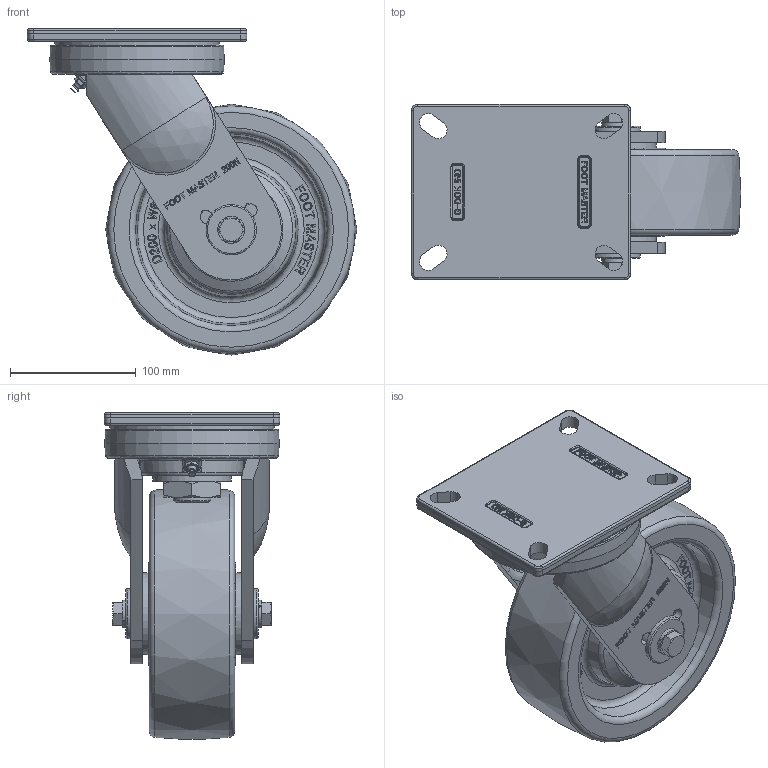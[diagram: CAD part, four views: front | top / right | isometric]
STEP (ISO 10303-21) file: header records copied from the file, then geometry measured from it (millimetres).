
FILE_DESCRIPTION(/* description */ (''),/* implementation_level */ '2;1');
FILE_NAME(/* name */ 'Y:\1.기술연구소\2.연구개발 진행중\133.고하중캐스터 브레이크 타입 변경건_2025.11.03\1.도면\4.홈페이지용 도면\01. 3D\GXT-200 SERIES\GXT-200-STEP\GXT-200N-ASF-NYD.stp',/* time_stamp */ '2026-07-21T19:20:51+09:00',/* author */ ('장용하'),/* organization */ (''),/* preprocessor_version */ 'ST-DEVELOPER v18.1',/* originating_system */ 'Autodesk Inventor 2021',/* authorisation */ '');
FILE_SCHEMA (('CONFIG_CONTROL_DESIGN'));
Length unit declared in the file: millimetre
Products named in the file (1): GXT-200N-ASF-NYD
Bounding box: 262.5 x 140 x 259.84 mm (x, y, z)
Volume: 2734821.9 mm3; surface area: 256925.4 mm2
Topology: 1 solids, 1 shells, 1356 faces, 3682 edges, 2432 vertices
Faces by surface type: plane 640, bspline 557, cylinder 94, cone 33, torus 28, sphere 4
Full cylindrical faces by diameter (mm): 12 x2, 30 x1, 40 x2, 62.5 x1, 65 x2, 131.086 x1
Entity records: 44372 total; most frequent: CARTESIAN_POINT 13715, ORIENTED_EDGE 7360, DIRECTION 4520, EDGE_CURVE 3680, VERTEX_POINT 2432, LINE 2124, VECTOR 2124, EDGE_LOOP 1482
